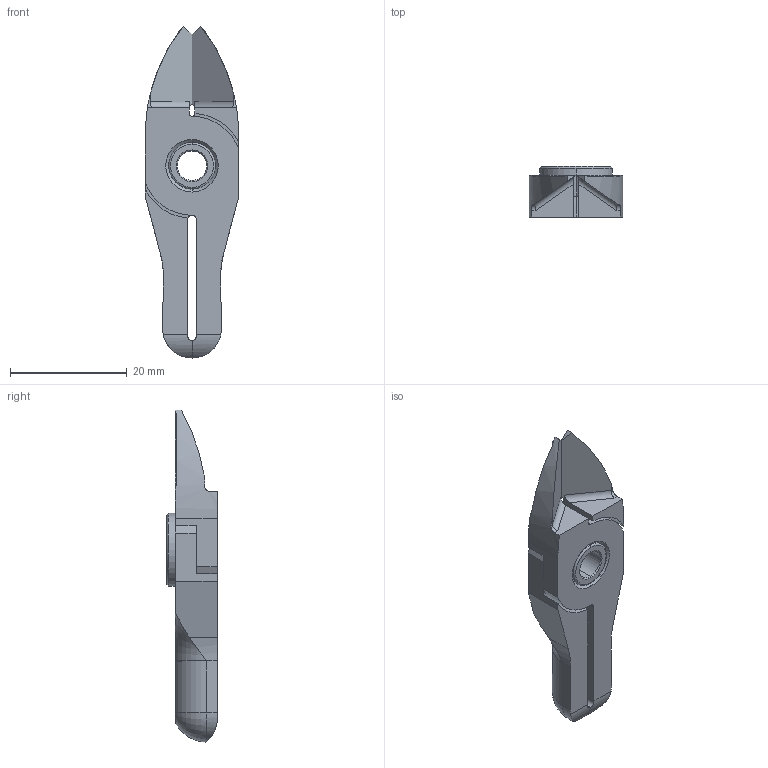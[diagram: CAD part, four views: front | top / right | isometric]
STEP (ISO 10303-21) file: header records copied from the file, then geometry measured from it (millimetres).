
FILE_DESCRIPTION (( 'STEP AP214' ), '1' );
FILE_NAME ('NY10AJ.STEP', '2019-11-28T03:04:33', ( '微软用户' ), ( '微软中国' ), 'SwSTEP 2.0', 'SolidWorks 2016', '' );
FILE_SCHEMA (( 'AUTOMOTIVE_DESIGN' ));
Length unit declared in the file: millimetre
Products named in the file (1): NY10AJ
Bounding box: 16 x 8.7 x 57 mm (x, y, z)
Surface area: 3743.9 mm2 (no closed solid volume)
Topology: 0 solids, 4 shells, 127 faces, 335 edges, 212 vertices
Faces by surface type: cylinder 52, plane 41, cone 22, torus 10, bspline 2
Entity records: 4480 total; most frequent: CARTESIAN_POINT 1306, DIRECTION 683, ORIENTED_EDGE 638, EDGE_CURVE 331, AXIS2_PLACEMENT_3D 263, VERTEX_POINT 212, LINE 157, VECTOR 157
